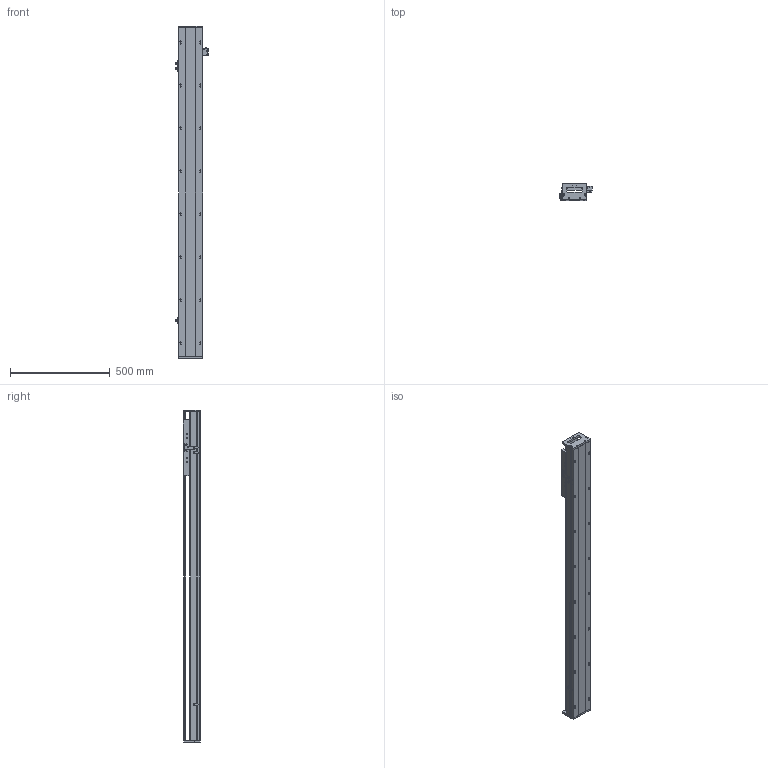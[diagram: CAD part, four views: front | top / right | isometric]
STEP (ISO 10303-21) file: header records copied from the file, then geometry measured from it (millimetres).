
FILE_DESCRIPTION (( 'STEP AP203' ), '1' );
FILE_NAME ('SKR12S-C2-S1288（简）.STEP', '2022-09-26T05:21:28', ( '' ), ( '' ), 'SwSTEP 2.0', 'SolidWorks 2018', '' );
FILE_SCHEMA (( 'CONFIG_CONTROL_DESIGN' ));
Length unit declared in the file: millimetre
Products named in the file (8): SKR12S-C2-S1288（简）; SIKO棠掑; 棠掑假蚾輸; SKR12耜啣; 覜茼え; EE-SX672; SKR12菁釱-C2-S1288(潠); SKR12滑台-280L（简）
Assembly tree (10 placements, depth 2):
  SKR12S-C2-S1288（简）
    SKR12菁釱-C2-S1288(潠)
    SKR12滑台-280L（简）
    SKR12耜啣  x2
    棠掑假蚾輸
    SIKO棠掑
    EE-SX672  x3
    覜茼え
Bounding box: 162.7 x 87.3 x 1668 mm (x, y, z)
Volume: 7580528.2 mm3; surface area: 1200344.6 mm2
Topology: 11 solids, 11 shells, 1036 faces, 2763 edges, 1745 vertices
Faces by surface type: cylinder 486, plane 408, cone 142
Entity records: 28621 total; most frequent: CARTESIAN_POINT 5931, DIRECTION 4687, ORIENTED_EDGE 4474, EDGE_CURVE 2237, AXIS2_PLACEMENT_3D 1741, VERTEX_POINT 1449, LINE 1205, VECTOR 1205
